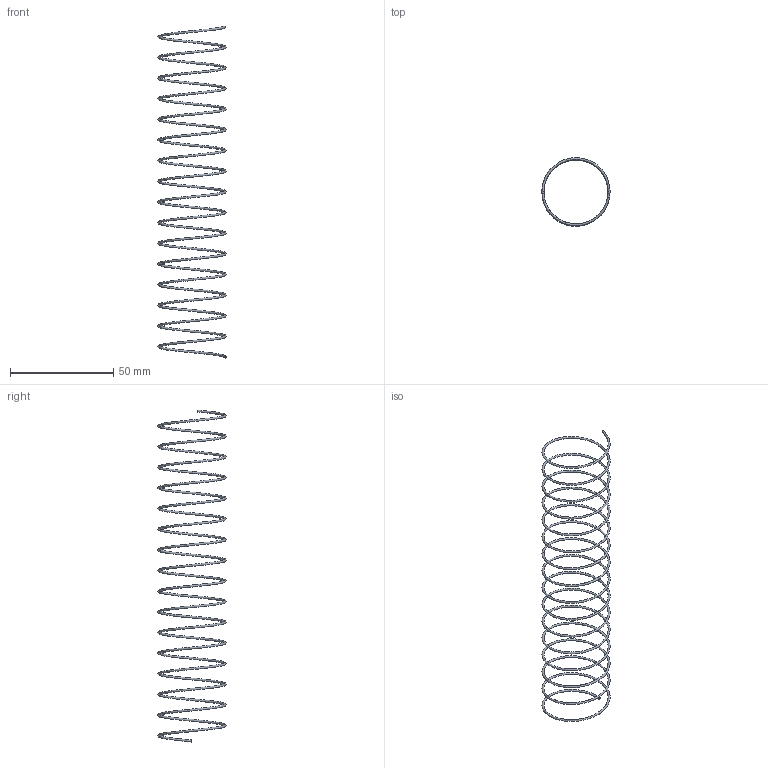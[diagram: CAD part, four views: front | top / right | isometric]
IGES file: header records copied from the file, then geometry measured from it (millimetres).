
Start section: Missler Software BP 521, 31674 Labege Cedex, France Tel   : +33 (0)5 61 00 03 00 Fax   : +33 (0)5 61 00 03 03 Email : sup.topsolid@topsolid.com
Global section: file name: D:\Cuma\25 06 2009\D60.01\D60.01_32\D60.01_32160.igs; native system: TopSolid v605250 Missler Software; preprocessor: IGES preprocessor v100000; date: 030203.162311; units: millimetre
Bounding box: 32.99 x 32.98 x 160.72 mm (x, y, z)
Surface area: 5033.9 mm2 (no closed solid volume)
Topology: 0 solids, 0 shells, 3 faces, 27 edges, 26 vertices
Faces by surface type: bspline 3
